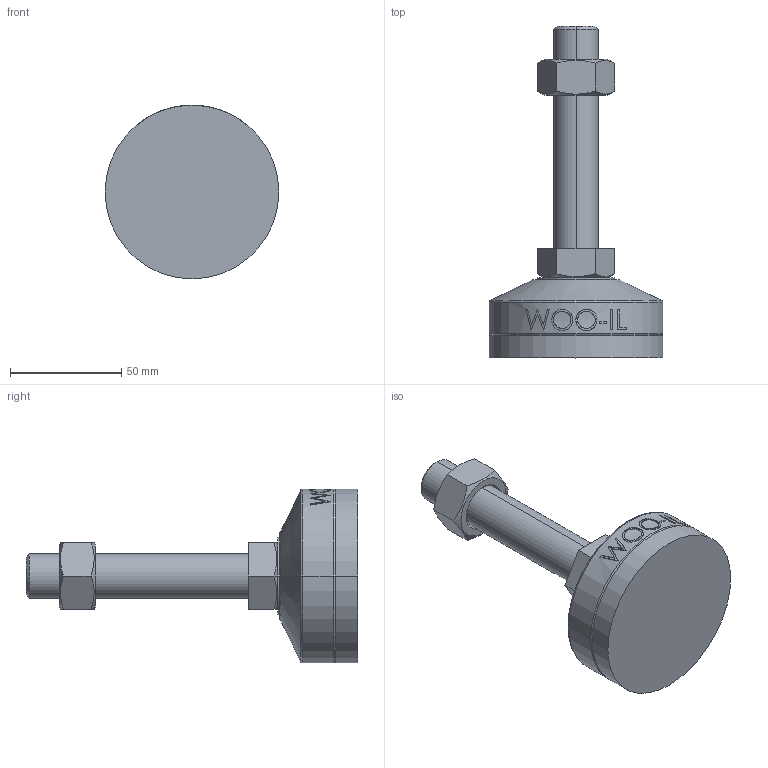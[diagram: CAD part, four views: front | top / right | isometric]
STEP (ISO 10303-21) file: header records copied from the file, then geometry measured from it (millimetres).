
FILE_DESCRIPTION (( 'STEP AP214' ), '1' );
FILE_NAME ('MFZR78-M20-100.step', '2021-03-29T06:58:22', ( '' ), ( '' ), 'SwSTEP 2.0', 'SolidWorks 2019', '' );
FILE_SCHEMA (( 'AUTOMOTIVE_DESIGN' ));
Length unit declared in the file: millimetre
Products named in the file (2): MFZR78-M20-100
Bounding box: 78 x 149 x 78 mm (x, y, z)
Volume: 197852.9 mm3; surface area: 29167.3 mm2
Topology: 3 solids, 3 shells, 102 faces, 239 edges, 154 vertices
Faces by surface type: plane 48, cylinder 18, bspline 16, cone 14, torus 6
Entity records: 4524 total; most frequent: CARTESIAN_POINT 2249, ORIENTED_EDGE 478, DIRECTION 415, EDGE_CURVE 239, AXIS2_PLACEMENT_3D 158, VERTEX_POINT 154, EDGE_LOOP 115, ADVANCED_FACE 102
